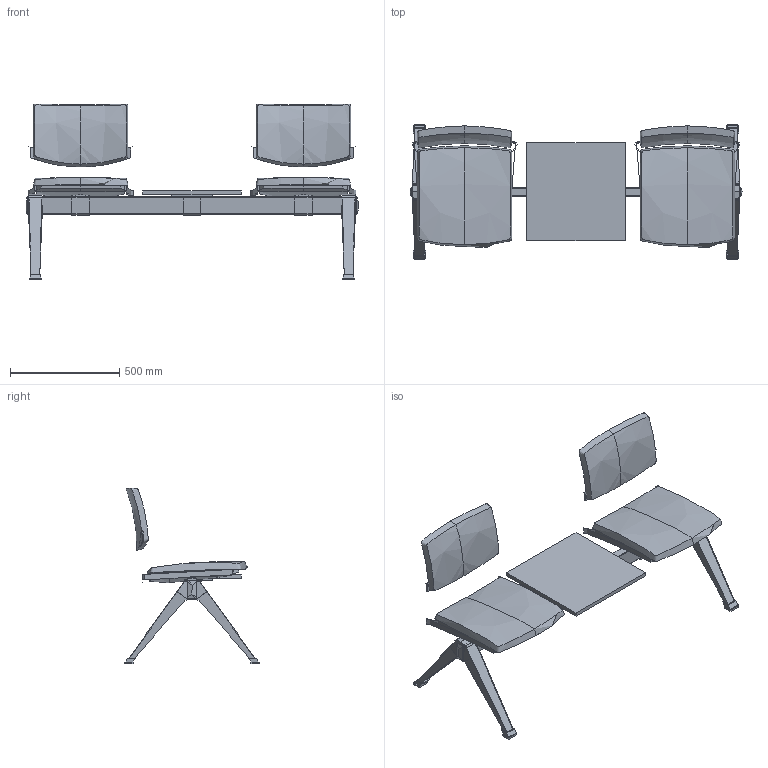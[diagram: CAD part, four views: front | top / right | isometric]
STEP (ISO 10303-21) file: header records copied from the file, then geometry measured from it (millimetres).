
FILE_DESCRIPTION(/* description */ (''),/* implementation_level */ '2;1');
FILE_NAME(/* name */ 'Seance 099-2T',/* time_stamp */ '2020-03-26T13:56:28+01:00',/* author */ (''),/* organization */ (''),/* preprocessor_version */ 'ST-DEVELOPER v16.5',/* originating_system */ '',/* authorisation */ '');
FILE_SCHEMA (('AUTOMOTIVE_DESIGN'));
Length unit declared in the file: millimetre
Products named in the file (1): Document
Bounding box: 1520 x 620 x 805.58 mm (x, y, z)
Volume: 29441891.3 mm3; surface area: 3659577.9 mm2
Topology: 31 solids, 38 shells, 406 faces, 978 edges, 624 vertices
Faces by surface type: bspline 208, plane 198
Entity records: 15595 total; most frequent: CARTESIAN_POINT 9205, ORIENTED_EDGE 1832, EDGE_CURVE 956, B_SPLINE_CURVE_WITH_KNOTS 803, VERTEX_POINT 614, ADVANCED_FACE 406, FACE_OUTER_BOUND 406, EDGE_LOOP 406
